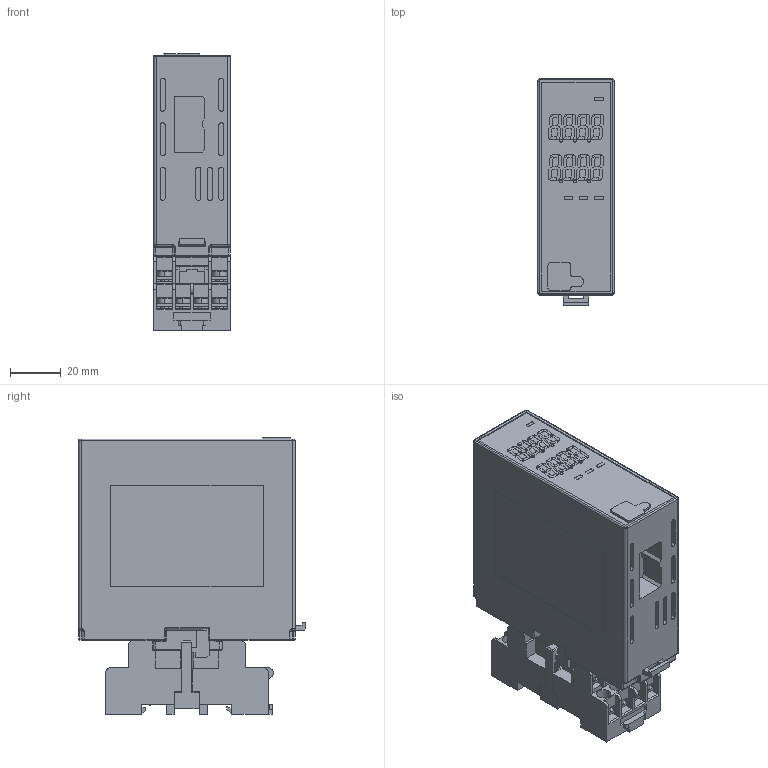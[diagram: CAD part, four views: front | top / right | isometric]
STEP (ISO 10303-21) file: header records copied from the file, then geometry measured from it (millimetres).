
FILE_DESCRIPTION (( 'STEP AP214' ), '1' );
FILE_NAME ('AS_WIL_HP—p_200421.STEP', '2020-05-15T02:37:02', ( '' ), ( '' ), 'SwSTEP 2.0', 'SolidWorks 2018', '' );
FILE_SCHEMA (( 'AUTOMOTIVE_DESIGN' ));
Length unit declared in the file: millimetre
Products named in the file (4): WIL_筐体_HP用_200421^AS_WIL_HP用_200421; Socket_ASK-001-1^AS_WIL_HP用_200421; AS_WIL_HP用_200421; キャップ_SE_HP用_200421^AS_WIL_HP用_200421
Assembly tree (3 placements, depth 2):
  AS_WIL_HP用_200421
    キャップ_SE_HP用_200421^AS_WIL_HP用_200421
    WIL_筐体_HP用_200421^AS_WIL_HP用_200421
    Socket_ASK-001-1^AS_WIL_HP用_200421
Bounding box: 30 x 89.42 x 108.6 mm (x, y, z)
Volume: 228685.3 mm3; surface area: 46467.7 mm2
Topology: 3 solids, 9 shells, 1742 faces, 4597 edges, 2995 vertices
Faces by surface type: plane 1230, cylinder 414, bspline 40, torus 33, sphere 18, cone 7
Entity records: 54691 total; most frequent: CARTESIAN_POINT 10805, ORIENTED_EDGE 9154, DIRECTION 8794, EDGE_CURVE 4577, LINE 3602, VECTOR 3602, VERTEX_POINT 2995, AXIS2_PLACEMENT_3D 2596
